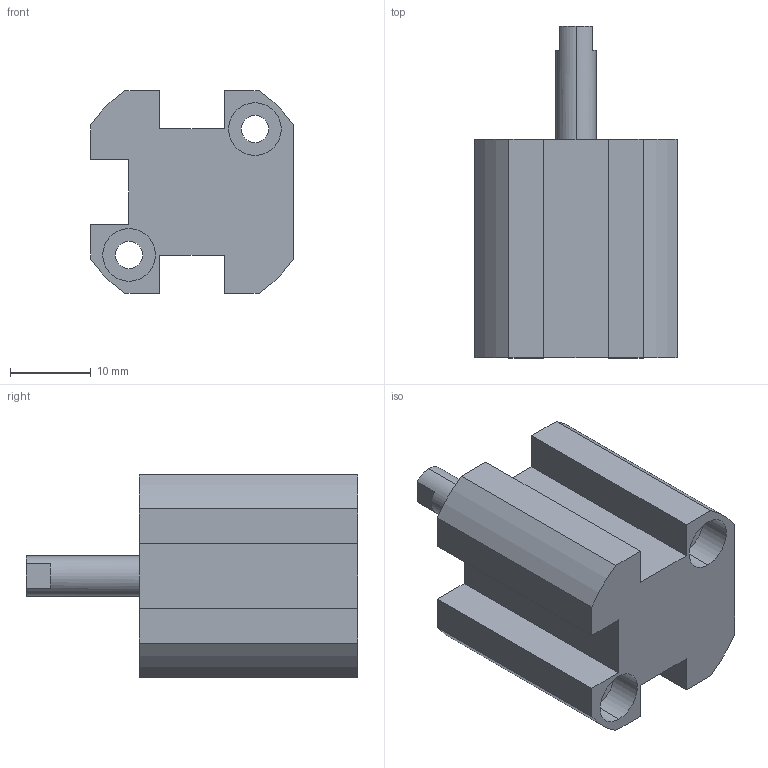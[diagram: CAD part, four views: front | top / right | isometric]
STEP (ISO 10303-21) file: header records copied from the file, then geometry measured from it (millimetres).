
FILE_DESCRIPTION (( 'STEP AP203' ), '1' );
FILE_NAME ('XC#0-10-10.STEP', '2016-05-23T06:35:04', ( '' ), ( '' ), 'SwSTEP 2.0', 'SolidWorks 2014', '' );
FILE_SCHEMA (( 'CONFIG_CONTROL_DESIGN' ));
Length unit declared in the file: millimetre
Products named in the file (1): XC#0-10-10
Bounding box: 25 x 41 x 25 mm (x, y, z)
Volume: 12007.2 mm3; surface area: 5429.7 mm2
Topology: 1 solids, 1 shells, 72 faces, 177 edges, 116 vertices
Faces by surface type: cylinder 37, plane 33, cone 2
Entity records: 2227 total; most frequent: DIRECTION 400, CARTESIAN_POINT 364, ORIENTED_EDGE 350, EDGE_CURVE 175, AXIS2_PLACEMENT_3D 152, VERTEX_POINT 116, LINE 96, VECTOR 96
